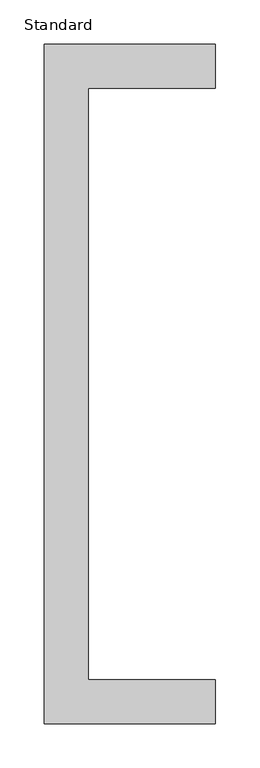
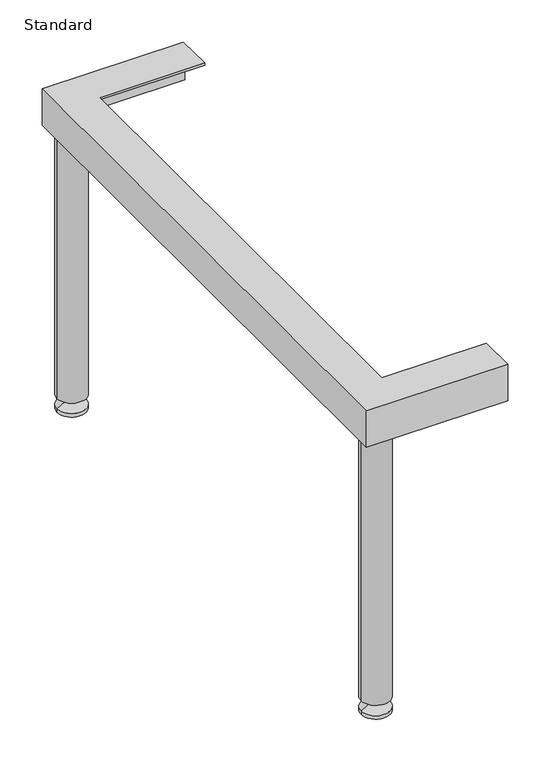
"""IFC4 building model written with IfcOpenShell, lengths in millimetres: furniture geometry, X_Bench-Foot-Duracube-Player Wall Assembly : Standard."""

from ifc_helpers import new_model, si_unit, point, frame, frame_2d, origin, place, context, project, spatial, polyline, circle_curve, trimmed, segment, composite_curve, outline, extrude, faceted_brep, source, transform, mapped, element, save
from ifc_brep_helpers import plane_surface, cylinder_surface, revolved_surface, advanced_brep


def standard_c1a46ae4(model_context):
    return source(origin(), model_context, "Body", "SolidModel", [
        advanced_brep(
        [(44.9503264, -23.75, 20.0), (36.9503264, -23.75, 20.0), (40.9503264, -23.75, 20.0), (44.9503264, -23.75, 15.0), (36.9503264, -23.75, 15.0), (60.9503264, -23.75, 5.0), (20.9503264, -23.75, 5.0), (60.9503264, -23.75, 0.0), (20.9503264, -23.75, 0.0), (40.9503264, -23.75, 0.0)],
        [
            (0, 1, circle_curve(frame((40.9503264, -23.75, 20.0), z_axis=(0.0, 0.0, 1.0), x_axis=(-1.0, 0.0, 0.0)), 4.0)),
            (1, 2),
            (2, 0),
            (1, 0, circle_curve(frame((40.9503264, -23.75, 20.0), z_axis=(0.0, 0.0, 1.0), x_axis=(-1.0, 0.0, 0.0)), 4.0)),
            (3, 4, circle_curve(frame((40.9503264, -23.75, 15.0), z_axis=(0.0, 0.0, 1.0), x_axis=(-1.0, 0.0, 0.0)), 4.0)),
            (4, 1),
            (0, 3),
            (4, 3, circle_curve(frame((40.9503264, -23.75, 15.0), z_axis=(0.0, 0.0, 1.0), x_axis=(-1.0, 0.0, 0.0)), 4.0)),
            (5, 6, circle_curve(frame((40.9503264, -23.75, 5.0), z_axis=(0.0, 0.0, 1.0), x_axis=(-1.0, 0.0, 0.0)), 20.0)),
            (6, 4),
            (3, 5),
            (6, 5, circle_curve(frame((40.9503264, -23.75, 5.0), z_axis=(0.0, 0.0, 1.0), x_axis=(-1.0, 0.0, 0.0)), 20.0)),
            (7, 8, circle_curve(frame((40.9503264, -23.75, 0.0), z_axis=(0.0, 0.0, 1.0), x_axis=(-1.0, 0.0, 0.0)), 20.0)),
            (8, 6),
            (5, 7),
            (8, 7, circle_curve(frame((40.9503264, -23.75, 0.0), z_axis=(0.0, 0.0, 1.0), x_axis=(-1.0, 0.0, 0.0)), 20.0)),
            (9, 8),
            (7, 9),
        ],
        [
            plane_surface(frame((40.9503264, -23.75, 20.0), z_axis=(0.0, 0.0, 1.0), x_axis=(-1.0, 0.0, 0.0))),
            cylinder_surface(frame((40.9503264, -23.75, 0.0), z_axis=(0.0, 0.0, -1.0), x_axis=(-1.0, 0.0, 0.0)), 4.0),
            revolved_surface(polyline([(36.9503264, -23.75, 15.0), (20.9503264, -23.75, 5.0)]), (40.9503264, -23.75, 0.0), (0.0, 0.0, -1.0)),
            cylinder_surface(frame((40.9503264, -23.75, 0.0), z_axis=(0.0, 0.0, -1.0), x_axis=(-1.0, 0.0, 0.0)), 20.0),
            plane_surface(frame((40.9503264, -23.75, 0.0), z_axis=(0.0, 0.0, -1.0), x_axis=(-1.0, 0.0, 0.0))),
        ],
        [
            (0, [[1, 2, 3]]),
            (0, [[4, -3, -2]]),
            (1, [[5, 6, -1, 7]]),
            (1, [[8, -7, -4, -6]]),
            (2, [[9, 10, -5, 11]]),
            (2, [[12, -11, -8, -10]]),
            (3, [[13, 14, -9, 15]]),
            (3, [[16, -15, -12, -14]]),
            (4, [[17, -13, 18]]),
            (4, [[-18, -16, -17]]),
        ],
    ),
        advanced_brep(
        [(44.9503264, -746.25, 20.0), (36.9503264, -746.25, 20.0), (40.9503264, -746.25, 20.0), (44.9503264, -746.25, 15.0), (36.9503264, -746.25, 15.0), (60.9503264, -746.25, 5.0), (20.9503264, -746.25, 5.0), (60.9503264, -746.25, 0.0), (20.9503264, -746.25, 0.0), (40.9503264, -746.25, 0.0)],
        [
            (0, 1, circle_curve(frame((40.9503264, -746.25, 20.0), z_axis=(0.0, 0.0, 1.0), x_axis=(-1.0, 0.0, 0.0)), 4.0)),
            (1, 2),
            (2, 0),
            (1, 0, circle_curve(frame((40.9503264, -746.25, 20.0), z_axis=(0.0, 0.0, 1.0), x_axis=(-1.0, 0.0, 0.0)), 4.0)),
            (3, 4, circle_curve(frame((40.9503264, -746.25, 15.0), z_axis=(0.0, 0.0, 1.0), x_axis=(-1.0, 0.0, 0.0)), 4.0)),
            (4, 1),
            (0, 3),
            (4, 3, circle_curve(frame((40.9503264, -746.25, 15.0), z_axis=(0.0, 0.0, 1.0), x_axis=(-1.0, 0.0, 0.0)), 4.0)),
            (5, 6, circle_curve(frame((40.9503264, -746.25, 5.0), z_axis=(0.0, 0.0, 1.0), x_axis=(-1.0, 0.0, 0.0)), 20.0)),
            (6, 4),
            (3, 5),
            (6, 5, circle_curve(frame((40.9503264, -746.25, 5.0), z_axis=(0.0, 0.0, 1.0), x_axis=(-1.0, 0.0, 0.0)), 20.0)),
            (7, 8, circle_curve(frame((40.9503264, -746.25, 0.0), z_axis=(0.0, 0.0, 1.0), x_axis=(-1.0, 0.0, 0.0)), 20.0)),
            (8, 6),
            (5, 7),
            (8, 7, circle_curve(frame((40.9503264, -746.25, 0.0), z_axis=(0.0, 0.0, 1.0), x_axis=(-1.0, 0.0, 0.0)), 20.0)),
            (9, 8),
            (7, 9),
        ],
        [
            plane_surface(frame((40.9503264, -746.25, 20.0), z_axis=(0.0, 0.0, 1.0), x_axis=(-1.0, 0.0, 0.0))),
            cylinder_surface(frame((40.9503264, -746.25, 0.0), z_axis=(0.0, 0.0, -1.0), x_axis=(-1.0, 0.0, 0.0)), 4.0),
            revolved_surface(polyline([(36.9503264, -746.25, 15.0), (20.9503264, -746.25, 5.0)]), (40.9503264, -746.25, 0.0), (0.0, 0.0, -1.0)),
            cylinder_surface(frame((40.9503264, -746.25, 0.0), z_axis=(0.0, 0.0, -1.0), x_axis=(-1.0, 0.0, 0.0)), 20.0),
            plane_surface(frame((40.9503264, -746.25, 0.0), z_axis=(0.0, 0.0, -1.0), x_axis=(-1.0, 0.0, 0.0))),
        ],
        [
            (0, [[1, 2, 3]]),
            (0, [[4, -3, -2]]),
            (1, [[5, 6, -1, 7]]),
            (1, [[8, -7, -4, -6]]),
            (2, [[9, 10, -5, 11]]),
            (2, [[12, -11, -8, -10]]),
            (3, [[13, 14, -9, 15]]),
            (3, [[16, -15, -12, -14]]),
            (4, [[17, -13, 18]]),
            (4, [[-18, -16, -17]]),
        ],
    ),
        extrude(outline(composite_curve([segment(trimmed(circle_curve(frame_2d((40.9503264, -23.75)), 20.0), [point((20.9503264, -23.75))], [point((60.9503264, -23.75))], False, "CARTESIAN"), True, "CONTINUOUS"), segment(trimmed(circle_curve(frame_2d((40.9503264, -23.75)), 20.0), [point((60.9503264, -23.75))], [point((20.9503264, -23.75))], False, "CARTESIAN"), True, "CONTINUOUS")], self_intersect=False)), frame((0.0, 0.0, 20.0), z_axis=(0.0, 0.0, 1.0), x_axis=(1.0, 0.0, 0.0)), (0.0, 0.0, 1.0), 434.0),
        extrude(outline(composite_curve([segment(trimmed(circle_curve(frame_2d((40.9503264, -746.25)), 20.0), [point((20.9503264, -746.25))], [point((60.9503264, -746.25))], False, "CARTESIAN"), True, "CONTINUOUS"), segment(trimmed(circle_curve(frame_2d((40.9503264, -746.25)), 20.0), [point((60.9503264, -746.25))], [point((20.9503264, -746.25))], False, "CARTESIAN"), True, "CONTINUOUS")], self_intersect=False)), frame((0.0, 0.0, 20.0), z_axis=(0.0, 0.0, 1.0), x_axis=(1.0, 0.0, 0.0)), (0.0, 0.0, 1.0), 434.0),
        faceted_brep([(208.2003264, -770.0, 404.0), (208.2003264, -767.0, 404.0), (208.2003264, -767.0, 454.0), (208.2003264, -720.0, 454.0), (208.2003264, -720.0, 457.0), (208.2003264, -770.0, 457.0), (14.2003264, -770.0, 404.0), (14.2003264, 0.0, 404.0), (208.2003264, 0.0, 404.0), (208.2003264, -3.0, 404.0), (17.2003264, -3.0, 404.0), (17.2003264, -767.0, 404.0), (17.2003264, -767.0, 454.0), (17.2003264, -3.0, 454.0), (208.2003264, -3.0, 454.0), (208.2003264, -50.0, 454.0), (64.2003264, -50.0, 454.0), (64.2003264, -720.0, 454.0), (64.2003264, -720.0, 457.0), (64.2003264, -50.0, 457.0), (208.2003264, -50.0, 457.0), (208.2003264, 0.0, 457.0), (14.2003264, 0.0, 457.0), (14.2003264, -770.0, 457.0)], [[[0, 1, 2, 3, 4, 5]], [[1, 0, 6, 7, 8, 9, 10, 11]], [[2, 1, 11, 12]], [[3, 2, 12, 13, 14, 15, 16, 17]], [[4, 3, 17, 18]], [[5, 4, 18, 19, 20, 21, 22, 23]], [[0, 5, 23, 6]], [[6, 23, 22, 7]], [[7, 22, 21, 8]], [[8, 21, 20, 15, 14, 9]], [[13, 10, 9, 14]], [[12, 11, 10, 13]], [[19, 16, 15, 20]], [[18, 17, 16, 19]]]),
    ])


if __name__ == "__main__":
    model = new_model("IFC4")
    model_context = context("Model", 3, world=origin())
    ifc_project = project(units=[si_unit("LENGTHUNIT", "METRE", prefix="MILLI")], contexts=[model_context])
    site = spatial("IfcSite", under=ifc_project)
    building = spatial("IfcBuilding", under=site)
    placement = place(None, origin())
    standard_shape = standard_c1a46ae4(model_context)
    element("IfcFurniture", 1, ObjectType="X_Bench-Foot-Duracube-Player Wall Assembly : Standard", at=placement, inside=building, context=model_context, shape_type="MappedRepresentation", body=[
        mapped(standard_shape, transform((0.0, 0.0, 0.0), x_axis=(1.0, 0.0, 0.0), y_axis=(0.0, 1.0, 0.0), z_axis=(0.0, 0.0, 1.0))),
    ])
    save(model, "model.ifc")
